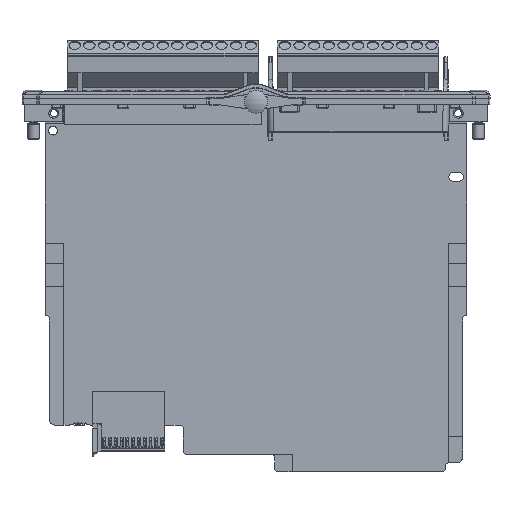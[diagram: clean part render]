
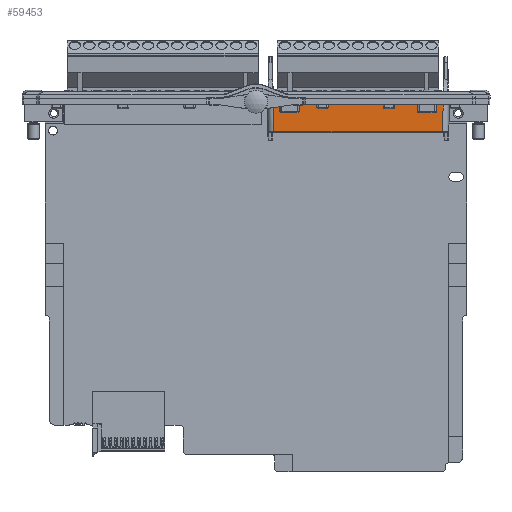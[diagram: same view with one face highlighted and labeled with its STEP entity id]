
A CAD part, top view. The second image highlights one B-rep face of the part: STEP entity #59453.
In plain terms, the highlighted planar face has unit normal (0, -0.018, 1).
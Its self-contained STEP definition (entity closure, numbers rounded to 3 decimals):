
#837=B_SPLINE_CURVE_WITH_KNOTS('',3,(#98566,#98567,#98568,#98569),
 .UNSPECIFIED.,.F.,.F.,(4,4),(0.,0.08),.UNSPECIFIED.);
#841=B_SPLINE_CURVE_WITH_KNOTS('',3,(#98683,#98684,#98685,#98686),
 .UNSPECIFIED.,.F.,.F.,(4,4),(0.,0.08),.UNSPECIFIED.);
#842=B_SPLINE_CURVE_WITH_KNOTS('',3,(#98695,#98696,#98697,#98698),
 .UNSPECIFIED.,.F.,.F.,(4,4),(0.,0.08),.UNSPECIFIED.);
#1305=ELLIPSE('',#64260,0.4,0.4);
#1306=ELLIPSE('',#64261,0.4,0.4);
#1307=ELLIPSE('',#64262,0.4,0.4);
#1308=ELLIPSE('',#64263,0.4,0.4);
#6589=FACE_OUTER_BOUND('',#10117,.T.);
#10117=EDGE_LOOP('',(#47424,#47425,#47426,#47427,#47428,#47429,#47430,#47431,
#47432,#47433,#47434,#47435,#47436,#47437,#47438,#47439,#47440,#47441,#47442,
#47443,#47444,#47445));
#15773=LINE('',#98183,#21316);
#15776=LINE('',#98377,#21319);
#15781=LINE('',#98467,#21324);
#15797=LINE('',#98670,#21340);
#15798=LINE('',#98674,#21341);
#15799=LINE('',#98678,#21342);
#15800=LINE('',#98681,#21343);
#15801=LINE('',#98688,#21344);
#15802=LINE('',#98690,#21345);
#15803=LINE('',#98692,#21346);
#15804=LINE('',#98693,#21347);
#15805=LINE('',#98700,#21348);
#15806=LINE('',#98704,#21349);
#15807=LINE('',#98708,#21350);
#15808=LINE('',#98709,#21351);
#21316=VECTOR('',#77648,10.);
#21319=VECTOR('',#77683,10.);
#21324=VECTOR('',#77706,10.);
#21340=VECTOR('',#77748,10.);
#21341=VECTOR('',#77753,10.);
#21342=VECTOR('',#77756,10.);
#21343=VECTOR('',#77759,10.);
#21344=VECTOR('',#77760,10.);
#21345=VECTOR('',#77761,10.);
#21346=VECTOR('',#77762,10.);
#21347=VECTOR('',#77763,10.);
#21348=VECTOR('',#77764,10.);
#21349=VECTOR('',#77767,10.);
#21350=VECTOR('',#77770,10.);
#21351=VECTOR('',#77771,10.);
#26557=VERTEX_POINT('',#98085);
#26560=VERTEX_POINT('',#98116);
#26561=VERTEX_POINT('',#98145);
#26564=VERTEX_POINT('',#98176);
#26565=VERTEX_POINT('',#98181);
#26572=VERTEX_POINT('',#98369);
#26582=VERTEX_POINT('',#98564);
#26594=VERTEX_POINT('',#98669);
#26595=VERTEX_POINT('',#98673);
#26596=VERTEX_POINT('',#98675);
#26597=VERTEX_POINT('',#98677);
#26598=VERTEX_POINT('',#98679);
#26599=VERTEX_POINT('',#98682);
#26600=VERTEX_POINT('',#98687);
#26601=VERTEX_POINT('',#98689);
#26602=VERTEX_POINT('',#98691);
#26603=VERTEX_POINT('',#98694);
#26604=VERTEX_POINT('',#98699);
#26605=VERTEX_POINT('',#98701);
#26606=VERTEX_POINT('',#98703);
#26607=VERTEX_POINT('',#98705);
#26608=VERTEX_POINT('',#98707);
#33717=EDGE_CURVE('',#26565,#26557,#15773,.T.);
#33737=EDGE_CURVE('',#26564,#26572,#15776,.T.);
#33748=EDGE_CURVE('',#26560,#26561,#15781,.T.);
#33760=EDGE_CURVE('',#26582,#26560,#837,.T.);
#33777=EDGE_CURVE('',#26594,#26557,#15797,.T.);
#33779=EDGE_CURVE('',#26595,#26582,#15798,.T.);
#33780=EDGE_CURVE('',#26596,#26595,#1305,.T.);
#33781=EDGE_CURVE('',#26597,#26596,#15799,.T.);
#33782=EDGE_CURVE('',#26598,#26597,#1306,.T.);
#33783=EDGE_CURVE('',#26594,#26598,#15800,.T.);
#33784=EDGE_CURVE('',#26599,#26565,#841,.T.);
#33785=EDGE_CURVE('',#26600,#26599,#15801,.T.);
#33786=EDGE_CURVE('',#26601,#26600,#15802,.T.);
#33787=EDGE_CURVE('',#26602,#26601,#15803,.T.);
#33788=EDGE_CURVE('',#26602,#26572,#15804,.T.);
#33789=EDGE_CURVE('',#26603,#26564,#842,.T.);
#33790=EDGE_CURVE('',#26604,#26603,#15805,.T.);
#33791=EDGE_CURVE('',#26605,#26604,#1307,.T.);
#33792=EDGE_CURVE('',#26606,#26605,#15806,.T.);
#33793=EDGE_CURVE('',#26607,#26606,#1308,.T.);
#33794=EDGE_CURVE('',#26608,#26607,#15807,.T.);
#33795=EDGE_CURVE('',#26608,#26561,#15808,.T.);
#47424=ORIENTED_EDGE('',*,*,#33748,.F.);
#47425=ORIENTED_EDGE('',*,*,#33760,.F.);
#47426=ORIENTED_EDGE('',*,*,#33779,.F.);
#47427=ORIENTED_EDGE('',*,*,#33780,.F.);
#47428=ORIENTED_EDGE('',*,*,#33781,.F.);
#47429=ORIENTED_EDGE('',*,*,#33782,.F.);
#47430=ORIENTED_EDGE('',*,*,#33783,.F.);
#47431=ORIENTED_EDGE('',*,*,#33777,.T.);
#47432=ORIENTED_EDGE('',*,*,#33717,.F.);
#47433=ORIENTED_EDGE('',*,*,#33784,.F.);
#47434=ORIENTED_EDGE('',*,*,#33785,.F.);
#47435=ORIENTED_EDGE('',*,*,#33786,.F.);
#47436=ORIENTED_EDGE('',*,*,#33787,.F.);
#47437=ORIENTED_EDGE('',*,*,#33788,.T.);
#47438=ORIENTED_EDGE('',*,*,#33737,.F.);
#47439=ORIENTED_EDGE('',*,*,#33789,.F.);
#47440=ORIENTED_EDGE('',*,*,#33790,.F.);
#47441=ORIENTED_EDGE('',*,*,#33791,.F.);
#47442=ORIENTED_EDGE('',*,*,#33792,.F.);
#47443=ORIENTED_EDGE('',*,*,#33793,.F.);
#47444=ORIENTED_EDGE('',*,*,#33794,.F.);
#47445=ORIENTED_EDGE('',*,*,#33795,.T.);
#53611=PLANE('',#64259);
#59453=ADVANCED_FACE('',(#6589),#53611,.T.);
#64259=AXIS2_PLACEMENT_3D('',#98672,#77751,#77752);
#64260=AXIS2_PLACEMENT_3D('',#98676,#77754,#77755);
#64261=AXIS2_PLACEMENT_3D('',#98680,#77757,#77758);
#64262=AXIS2_PLACEMENT_3D('',#98702,#77765,#77766);
#64263=AXIS2_PLACEMENT_3D('',#98706,#77768,#77769);
#77648=DIRECTION('',(1.,0.,0.));
#77683=DIRECTION('',(1.,0.,0.));
#77706=DIRECTION('',(1.,0.,0.));
#77748=DIRECTION('',(0.,1.,0.017));
#77751=DIRECTION('center_axis',(0.,-0.017,
1.));
#77752=DIRECTION('ref_axis',(-1.,0.,0.));
#77753=DIRECTION('',(0.017,1.,0.017));
#77754=DIRECTION('center_axis',(0.,-0.017,
1.));
#77755=DIRECTION('ref_axis',(0.,-1.,-0.017));
#77756=DIRECTION('',(1.,0.,0.));
#77757=DIRECTION('center_axis',(0.,-0.017,
1.));
#77758=DIRECTION('ref_axis',(0.,-1.,-0.017));
#77759=DIRECTION('',(0.017,-1.,-0.017));
#77760=DIRECTION('',(-0.017,1.,0.017));
#77761=DIRECTION('',(-1.,0.,0.));
#77762=DIRECTION('',(-0.017,-1.,-0.017));
#77763=DIRECTION('',(0.,1.,0.017));
#77764=DIRECTION('',(0.017,1.,0.017));
#77765=DIRECTION('center_axis',(0.,-0.017,
1.));
#77766=DIRECTION('ref_axis',(0.,-1.,-0.017));
#77767=DIRECTION('',(1.,0.,0.));
#77768=DIRECTION('center_axis',(0.,-0.017,
1.));
#77769=DIRECTION('ref_axis',(0.,-1.,-0.017));
#77770=DIRECTION('',(0.017,-1.,-0.017));
#77771=DIRECTION('',(0.,1.,0.017));
#98085=CARTESIAN_POINT('',(8.221,2.804,10.664));
#98116=CARTESIAN_POINT('',(15.019,2.804,10.664));
#98145=CARTESIAN_POINT('',(55.701,2.804,10.664));
#98176=CARTESIAN_POINT('',(62.499,2.804,10.664));
#98181=CARTESIAN_POINT('',(5.919,2.803,10.664));
#98183=CARTESIAN_POINT('',(48.683,2.803,10.664));
#98369=CARTESIAN_POINT('',(64.801,2.803,10.664));
#98377=CARTESIAN_POINT('',(48.683,2.803,10.664));
#98467=CARTESIAN_POINT('',(48.683,2.803,10.664));
#98564=CARTESIAN_POINT('',(15.02,2.,10.65));
#98566=CARTESIAN_POINT('Ctrl Pts',(15.02,2.,10.65));
#98567=CARTESIAN_POINT('Ctrl Pts',(15.02,2.268,10.655));
#98568=CARTESIAN_POINT('Ctrl Pts',(15.02,2.536,10.66));
#98569=CARTESIAN_POINT('Ctrl Pts',(15.02,2.803,10.664));
#98669=CARTESIAN_POINT('',(8.22,2.,10.65));
#98670=CARTESIAN_POINT('',(8.22,2.,10.65));
#98672=CARTESIAN_POINT('Origin',(62.344,4.5,10.694));
#98673=CARTESIAN_POINT('',(14.945,-2.303,10.575));
#98674=CARTESIAN_POINT('',(15.071,4.931,10.702));
#98675=CARTESIAN_POINT('',(14.545,-2.697,10.568));
#98676=CARTESIAN_POINT('Origin',(14.545,-2.297,10.575));
#98677=CARTESIAN_POINT('',(8.695,-2.697,10.568));
#98678=CARTESIAN_POINT('',(36.951,-2.697,10.568));
#98679=CARTESIAN_POINT('',(8.295,-2.303,10.575));
#98680=CARTESIAN_POINT('Origin',(8.695,-2.297,10.575));
#98681=CARTESIAN_POINT('',(8.184,4.026,10.686));
#98682=CARTESIAN_POINT('',(5.919,2.,10.65));
#98683=CARTESIAN_POINT('Ctrl Pts',(5.919,2.,10.65));
#98684=CARTESIAN_POINT('Ctrl Pts',(5.919,2.268,10.655));
#98685=CARTESIAN_POINT('Ctrl Pts',(5.919,2.536,10.66));
#98686=CARTESIAN_POINT('Ctrl Pts',(5.919,2.803,10.664));
#98687=CARTESIAN_POINT('',(6.117,-9.323,10.453));
#98688=CARTESIAN_POINT('',(5.887,3.87,10.683));
#98689=CARTESIAN_POINT('',(64.603,-9.323,10.453));
#98690=CARTESIAN_POINT('',(48.852,-9.323,10.453));
#98691=CARTESIAN_POINT('',(64.801,2.,10.65));
#98692=CARTESIAN_POINT('',(64.844,4.496,10.694));
#98693=CARTESIAN_POINT('',(64.801,2.,10.65));
#98694=CARTESIAN_POINT('',(62.5,2.,10.65));
#98695=CARTESIAN_POINT('Ctrl Pts',(62.5,2.,10.65));
#98696=CARTESIAN_POINT('Ctrl Pts',(62.5,2.268,10.655));
#98697=CARTESIAN_POINT('Ctrl Pts',(62.5,2.536,10.66));
#98698=CARTESIAN_POINT('Ctrl Pts',(62.5,2.803,10.664));
#98699=CARTESIAN_POINT('',(62.425,-2.303,10.575));
#98700=CARTESIAN_POINT('',(62.544,4.517,10.694));
#98701=CARTESIAN_POINT('',(62.025,-2.697,10.568));
#98702=CARTESIAN_POINT('Origin',(62.025,-2.297,10.575));
#98703=CARTESIAN_POINT('',(56.175,-2.697,10.568));
#98704=CARTESIAN_POINT('',(60.797,-2.697,10.568));
#98705=CARTESIAN_POINT('',(55.775,-2.303,10.575));
#98706=CARTESIAN_POINT('Origin',(56.175,-2.297,10.575));
#98707=CARTESIAN_POINT('',(55.7,2.,10.65));
#98708=CARTESIAN_POINT('',(55.657,4.44,10.693));
#98709=CARTESIAN_POINT('',(55.7,2.,10.65));
